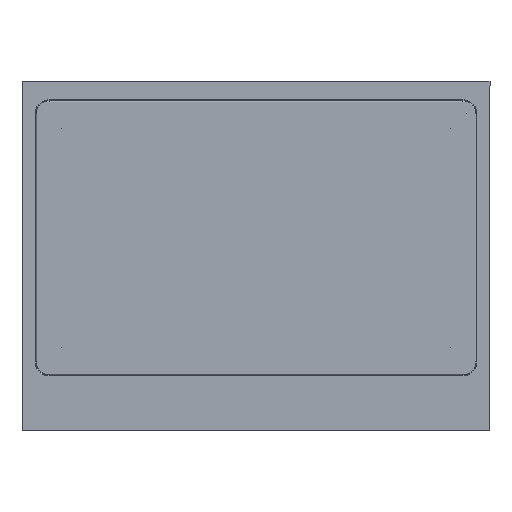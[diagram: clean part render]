
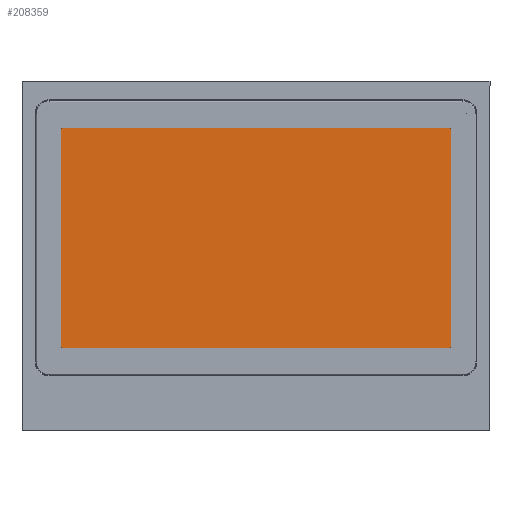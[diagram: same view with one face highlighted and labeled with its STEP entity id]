
A CAD part, top view. The second image highlights one B-rep face of the part: STEP entity #208359.
In plain terms, the highlighted planar face has unit normal (0, 0, 1).
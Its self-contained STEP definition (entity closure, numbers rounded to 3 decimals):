
#17752=FACE_OUTER_BOUND('',#28922,.T.);
#28922=EDGE_LOOP('',(#172878,#172879,#172880,#172881));
#51767=LINE('',#362248,#72422);
#51770=LINE('',#362254,#72425);
#51773=LINE('',#362260,#72428);
#51776=LINE('',#362264,#72431);
#72422=VECTOR('',#263936,10.);
#72425=VECTOR('',#263941,10.);
#72428=VECTOR('',#263946,10.);
#72431=VECTOR('',#263951,10.);
#92066=VERTEX_POINT('',#362245);
#92067=VERTEX_POINT('',#362247);
#92069=VERTEX_POINT('',#362253);
#92071=VERTEX_POINT('',#362259);
#119775=EDGE_CURVE('',#92067,#92066,#51767,.T.);
#119778=EDGE_CURVE('',#92069,#92067,#51770,.T.);
#119781=EDGE_CURVE('',#92071,#92069,#51773,.T.);
#119784=EDGE_CURVE('',#92066,#92071,#51776,.T.);
#172878=ORIENTED_EDGE('',*,*,#119775,.T.);
#172879=ORIENTED_EDGE('',*,*,#119784,.T.);
#172880=ORIENTED_EDGE('',*,*,#119781,.T.);
#172881=ORIENTED_EDGE('',*,*,#119778,.T.);
#188735=PLANE('',#221637);
#208359=ADVANCED_FACE('',(#17752),#188735,.F.);
#221637=AXIS2_PLACEMENT_3D('',#362266,#263954,#263955);
#263936=DIRECTION('',(1.,0.,0.));
#263941=DIRECTION('',(0.,-1.,0.));
#263946=DIRECTION('',(-1.,0.,0.));
#263951=DIRECTION('',(0.,1.,0.));
#263954=DIRECTION('center_axis',(0.,0.,
-1.));
#263955=DIRECTION('ref_axis',(1.,0.,0.));
#362245=CARTESIAN_POINT('',(172.615,-110.32,6.201));
#362247=CARTESIAN_POINT('',(-172.615,-110.32,6.201));
#362248=CARTESIAN_POINT('',(-86.308,-110.32,6.201));
#362253=CARTESIAN_POINT('',(-172.615,84.22,6.201));
#362254=CARTESIAN_POINT('',(-172.615,35.585,6.201));
#362259=CARTESIAN_POINT('',(172.615,84.22,6.201));
#362260=CARTESIAN_POINT('',(86.308,84.22,6.201));
#362264=CARTESIAN_POINT('',(172.615,-61.685,6.201));
#362266=CARTESIAN_POINT('Origin',(0.,-13.05,
6.201));
